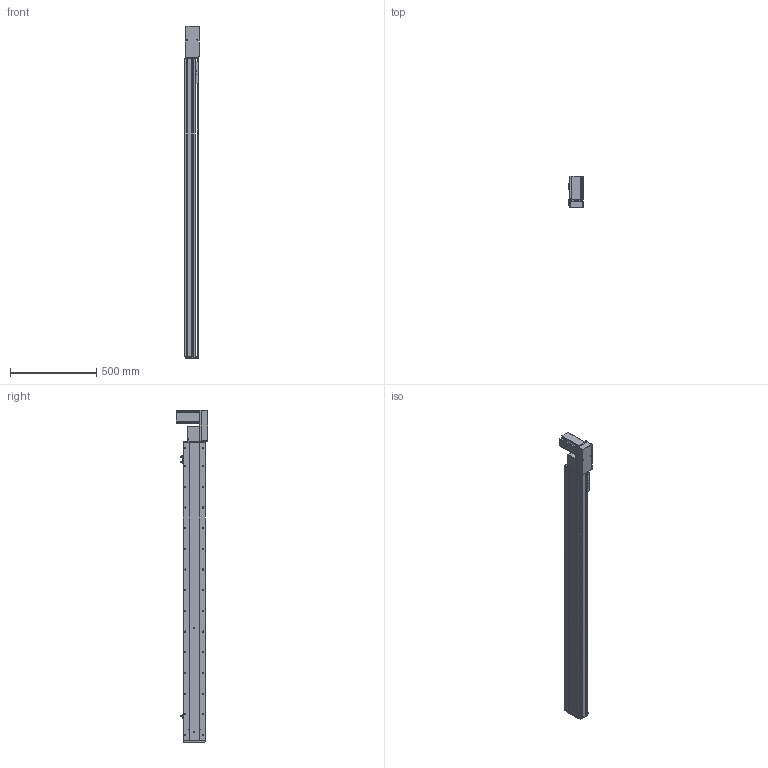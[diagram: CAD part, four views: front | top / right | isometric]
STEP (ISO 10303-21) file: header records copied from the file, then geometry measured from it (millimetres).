
FILE_DESCRIPTION (( 'STEP AP214' ), '1' );
FILE_NAME ('KSD130B-S1500-MLB-CM.STEP', '2019-09-19T08:14:53', ( '微软用户' ), ( '微软中国' ), 'SwSTEP 2.0', 'SolidWorks 2014', '' );
FILE_SCHEMA (( 'AUTOMOTIVE_DESIGN' ));
Length unit declared in the file: millimetre
Products named in the file (12): KSD130B-S1500-MLB-CM; 台达ECMA－C20807AS伺服电机; 130宽模组保护罩上下左右折-同步带; 130宽模组马达安装板连板左右折同步带; 覜茼え100遵圉猾敕; U倰嫖萇EEㄜSX672; 130宽盖板半封闭同步带-1500行程; 130宽马达安装板同步带左-改; 130宽马达安装板同步带半封闭; 130宽同步带安装座半封闭; 130宽端盖同步带半封闭; 130宽底板半封闭同步带-1500行程
Assembly tree (13 placements, depth 2):
  KSD130B-S1500-MLB-CM
    130宽底板半封闭同步带-1500行程
    130宽端盖同步带半封闭
    130宽同步带安装座半封闭
    130宽马达安装板同步带半封闭
    130宽马达安装板同步带左-改
    130宽盖板半封闭同步带-1500行程
    U倰嫖萇EEㄜSX672  x3
    覜茼え100遵圉猾敕
    130宽模组马达安装板连板左右折同步带
    130宽模组保护罩上下左右折-同步带
    台达ECMA－C20807AS伺服电机
Bounding box: 82.5 x 184.8 x 1927 mm (x, y, z)
Volume: 6337189.9 mm3; surface area: 1775563.8 mm2
Topology: 14 solids, 14 shells, 1659 faces, 4801 edges, 3051 vertices
Faces by surface type: cylinder 810, plane 642, cone 207
Entity records: 55947 total; most frequent: CARTESIAN_POINT 10700, DIRECTION 8451, ORIENTED_EDGE 8174, EDGE_CURVE 4087, AXIS2_PLACEMENT_3D 3102, VERTEX_POINT 2675, LINE 2247, VECTOR 2247
